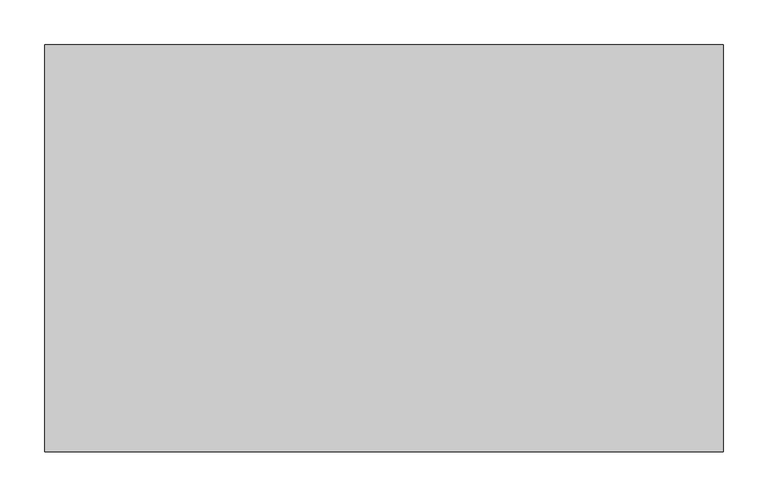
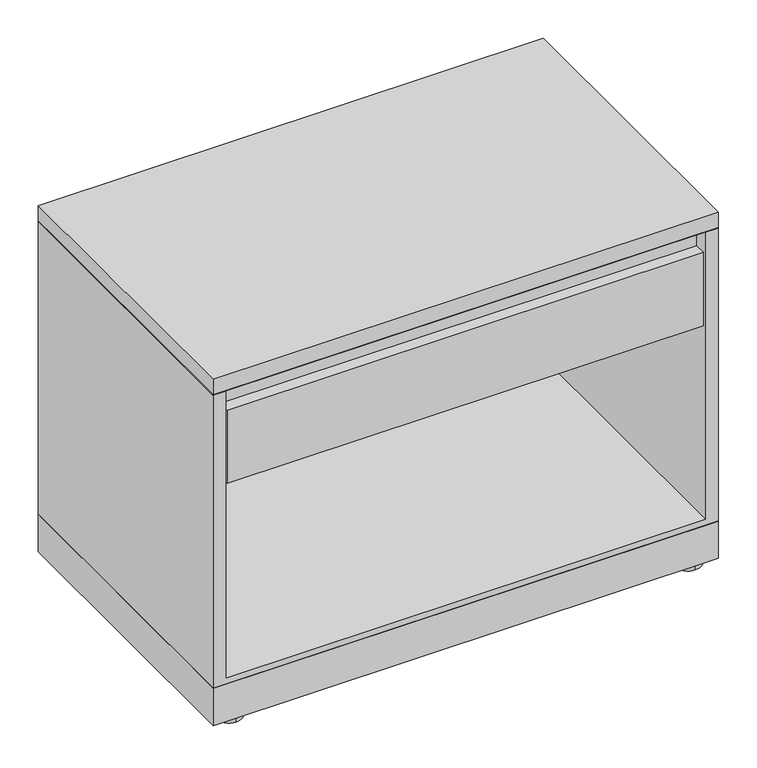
"""IFC4 building model written with IfcOpenShell, lengths in millimetres: furniture geometry, Steelcase - Universal Storage - Lateral File - 1.5 High - Flush Steel : Drawer/Open - 18D x 30W."""

from ifc_helpers import new_model, si_unit, point, frame, frame_2d, origin, origin_with_axes, place, context, project, spatial, polyline, circle_curve, trimmed, segment, composite_curve, outline, extrude, faceted_brep, source, transform, mapped, element, save


def furniture_8d48290b(model_context):
    return source(origin(), model_context, "Body", "SolidModel", [
        extrude(outline(polyline([(762.0, 457.2), (762.0, 0.0), (0.0, 0.0), (0.0, 457.2), (762.0, 457.2)])), frame((0.0, 0.0, 6.3500002), z_axis=(0.0, 0.0, 1.0), x_axis=(1.0, 0.0, 0.0)), (0.0, 0.0, 1.0), 59.6899998),
        extrude(outline(composite_curve([segment(trimmed(circle_curve(frame_2d((727.3290058, 434.8633666)), 20.32), [point((727.3290058, 414.5433666))], [point((727.3290058, 455.1833666))], False, "CARTESIAN"), True, "CONTINUOUS"), segment(trimmed(circle_curve(frame_2d((727.3290058, 434.8633666)), 20.32), [point((727.3290058, 455.1833666))], [point((727.3290058, 414.5433666))], False, "CARTESIAN"), True, "CONTINUOUS")], self_intersect=False)), origin_with_axes(), (0.0, 0.0, 1.0), 6.3500002),
        extrude(outline(composite_curve([segment(trimmed(circle_curve(frame_2d((727.3290058, 20.7491455)), 20.32), [point((727.3290058, 0.4291455))], [point((727.3290058, 41.0691455))], False, "CARTESIAN"), True, "CONTINUOUS"), segment(trimmed(circle_curve(frame_2d((727.3290058, 20.7491455)), 20.32), [point((727.3290058, 41.0691455))], [point((727.3290058, 0.4291455))], False, "CARTESIAN"), True, "CONTINUOUS")], self_intersect=False)), origin_with_axes(), (0.0, 0.0, 1.0), 6.3500002),
        extrude(outline(composite_curve([segment(trimmed(circle_curve(frame_2d((34.29, 434.8633666)), 20.32), [point((34.29, 455.1833666))], [point((34.29, 414.5433666))], False, "CARTESIAN"), True, "CONTINUOUS"), segment(trimmed(circle_curve(frame_2d((34.29, 434.8633666)), 20.32), [point((34.29, 414.5433666))], [point((34.29, 455.1833666))], False, "CARTESIAN"), True, "CONTINUOUS")], self_intersect=False)), origin_with_axes(), (0.0, 0.0, 1.0), 6.3500002),
        extrude(outline(composite_curve([segment(trimmed(circle_curve(frame_2d((34.29, 20.7491455)), 20.32), [point((34.29, 41.0691455))], [point((34.29, 0.4291455))], False, "CARTESIAN"), True, "CONTINUOUS"), segment(trimmed(circle_curve(frame_2d((34.29, 20.7491455)), 20.32), [point((34.29, 0.4291455))], [point((34.29, 41.0691455))], False, "CARTESIAN"), True, "CONTINUOUS")], self_intersect=False)), origin_with_axes(), (0.0, 0.0, 1.0), 6.3500002),
        extrude(outline(polyline([(437.7944128, 396.7988176), (437.7944128, 410.7687861), (440.969412, 410.7687861), (440.969412, 371.5257963), (26.822418, 371.5257963), (26.822418, 396.7988176), (437.7944128, 396.7988176)])), frame((22.0472, 0.0, 0.0), z_axis=(1.0, 0.0, 0.0), x_axis=(0.0, 1.0, 0.0)), (0.0, 0.0, 1.0), 717.9056),
        extrude(outline(polyline([(1.45e-05, 534.0350121), (457.2, 534.0350121), (456.4379879, 533.273), (0.7620266, 533.273), (1.45e-05, 534.0350121)])), frame((0.0, 0.0, 0.0), z_axis=(1.0, 0.0, 0.0), x_axis=(0.0, 1.0, 0.0)), (0.0, 0.0, 1.0), 762.0),
        extrude(outline(polyline([(762.0, 457.2), (762.0, 0.0), (0.0, 0.0), (0.0, 457.2), (762.0, 457.2)])), frame((0.0, 0.0, 534.0350121), z_axis=(0.0, 0.0, 1.0), x_axis=(1.0, 0.0, 0.0)), (0.0, 0.0, 1.0), 24.6379729),
        faceted_brep([(762.0, 0.0, 66.04), (762.0, 457.2, 66.04), (762.0, 457.2, 533.273), (762.0, 0.0, 533.273), (0.0, 0.0, 533.273), (0.0, 457.2, 533.273), (0.0, 457.2, 66.04), (0.0, 0.0, 66.04), (742.95, 0.0, 533.273), (742.95, 0.0, 75.1586), (19.05, 0.0, 75.1586), (19.05, 0.0, 533.273), (19.05, 454.0249999, 533.273), (742.95, 454.0249999, 533.273), (19.05, 454.0249999, 75.1586), (742.95, 454.0249999, 75.1586)], [[[0, 1, 2, 3]], [[4, 5, 6, 7]], [[0, 3, 8, 9, 10, 11, 4, 7]], [[2, 1, 6, 5]], [[3, 2, 5, 4, 11, 12, 13, 8]], [[12, 14, 15, 13]], [[14, 12, 11, 10]], [[13, 15, 9, 8]], [[1, 0, 7, 6]], [[10, 9, 15, 14]]]),
        extrude(outline(polyline([(23.6541043, 384.1241916), (1.5178885, 384.1241916), (1.5178885, 501.1928089), (19.3741023, 501.1928089), (19.3741023, 531.799807), (23.6541043, 531.799807), (23.6541043, 384.1241916)])), frame((22.0472, 0.0, 0.0), z_axis=(1.0, 0.0, 0.0), x_axis=(0.0, 1.0, 0.0)), (0.0, 0.0, 1.0), 717.9056),
    ])


if __name__ == "__main__":
    model = new_model("IFC4")
    model_context = context("Model", 3, world=origin())
    ifc_project = project(units=[si_unit("LENGTHUNIT", "METRE", prefix="MILLI")], contexts=[model_context])
    site = spatial("IfcSite", under=ifc_project)
    building = spatial("IfcBuilding", under=site)
    placement = place(None, origin())
    furniture_shape = furniture_8d48290b(model_context)
    element("IfcFurniture", 1, ObjectType="Steelcase - Universal Storage - Lateral File - 1.5 High - Flush Steel : Drawer/Open - 18D x 30W", at=placement, inside=building, context=model_context, shape_type="MappedRepresentation", body=[
        mapped(furniture_shape, transform((0.0, 0.0, 0.0), x_axis=(1.0, 0.0, 0.0), y_axis=(0.0, 1.0, 0.0), z_axis=(0.0, 0.0, 1.0))),
    ])
    save(model, "model.ifc")
